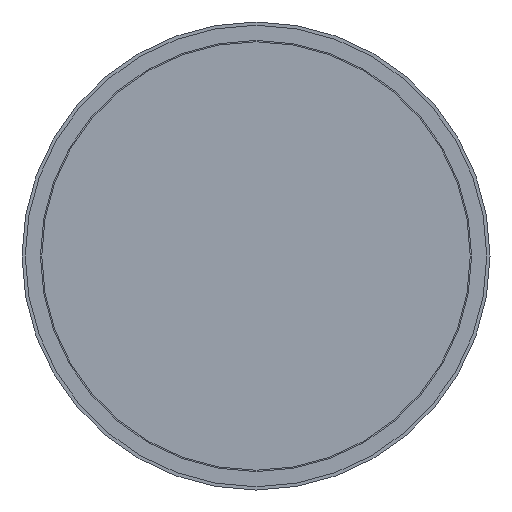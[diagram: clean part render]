
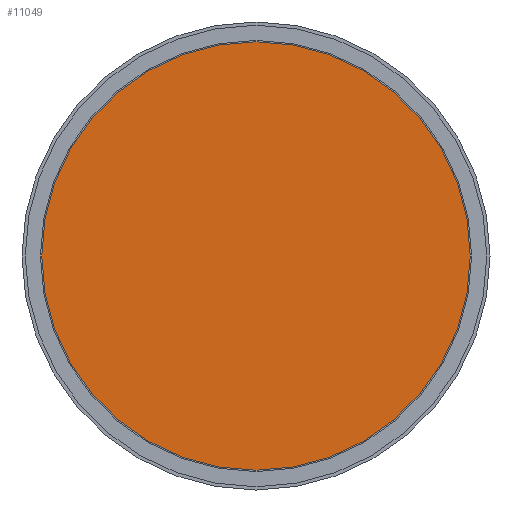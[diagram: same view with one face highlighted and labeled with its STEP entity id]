
A CAD part, left-side view. The second image highlights one B-rep face of the part: STEP entity #11049.
In plain terms, the highlighted planar face has unit normal (-1, 0, 0) as drawn and (0, 0, 1) by its records, which use the part's own axes.
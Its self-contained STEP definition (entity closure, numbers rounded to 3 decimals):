
#1581 = CIRCLE ( 'NONE', #8023, 65. ) ;
#1751 = AXIS2_PLACEMENT_3D ( 'NONE', #3281, #6786, #5929 ) ;
#2645 = EDGE_CURVE ( 'NONE', #2900, #6262, #8187, .T. ) ;
#2900 = VERTEX_POINT ( 'NONE', #6486 ) ;
#3281 = CARTESIAN_POINT ( 'NONE',  ( 0., 0., 243. ) ) ;
#3838 = EDGE_LOOP ( 'NONE', ( #7057, #9397 ) ) ;
#4152 = CARTESIAN_POINT ( 'NONE',  ( 0., 0., 243. ) ) ;
#4809 = PLANE ( 'NONE',  #11226 ) ;
#5611 = DIRECTION ( 'NONE',  ( 0., 0., -1. ) ) ;
#5929 = DIRECTION ( 'NONE',  ( 1., 0., 0. ) ) ;
#6262 = VERTEX_POINT ( 'NONE', #8199 ) ;
#6486 = CARTESIAN_POINT ( 'NONE',  ( -65., 0., 243. ) ) ;
#6707 = DIRECTION ( 'NONE',  ( -1., 0., 0. ) ) ;
#6786 = DIRECTION ( 'NONE',  ( 0., 0., 1. ) ) ;
#7057 = ORIENTED_EDGE ( 'NONE', *, *, #10077, .T. ) ;
#7545 = DIRECTION ( 'NONE',  ( 1., 0., 0. ) ) ;
#8023 = AXIS2_PLACEMENT_3D ( 'NONE', #4152, #8532, #7545 ) ;
#8187 = CIRCLE ( 'NONE', #1751, 65. ) ;
#8199 = CARTESIAN_POINT ( 'NONE',  ( 65., 0., 243. ) ) ;
#8532 = DIRECTION ( 'NONE',  ( 0., 0., 1. ) ) ;
#9397 = ORIENTED_EDGE ( 'NONE', *, *, #2645, .T. ) ;
#10077 = EDGE_CURVE ( 'NONE', #6262, #2900, #1581, .T. ) ;
#10209 = CARTESIAN_POINT ( 'NONE',  ( 0., 0., 243. ) ) ;
#11049 = ADVANCED_FACE ( 'NONE', ( #11067 ), #4809, .F. ) ;
#11067 = FACE_OUTER_BOUND ( 'NONE', #3838, .T. ) ;
#11226 = AXIS2_PLACEMENT_3D ( 'NONE', #10209, #5611, #6707 ) ;
